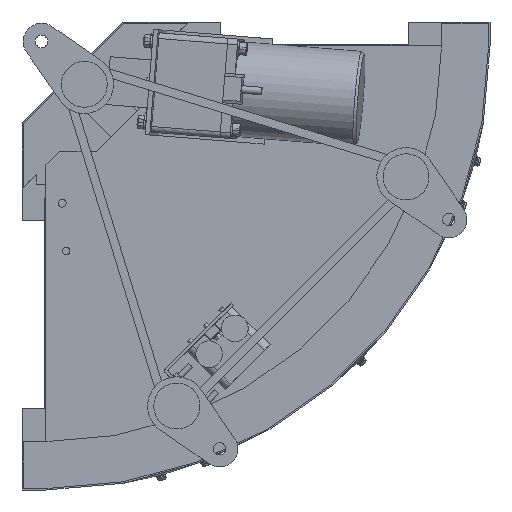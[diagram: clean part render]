
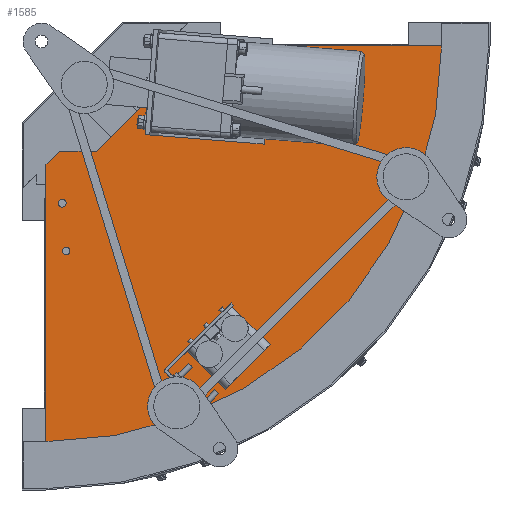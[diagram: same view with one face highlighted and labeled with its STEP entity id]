
A CAD part, front view. The second image highlights one B-rep face of the part: STEP entity #1585.
In plain terms, the highlighted planar face has unit normal (0, -1, 0).
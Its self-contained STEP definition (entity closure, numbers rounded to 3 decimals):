
#1585=ADVANCED_FACE('',(#3298,#3299,#3300,#3301,#3302),#3297,.F.);
#3297=PLANE('',#14455);
#3298=FACE_OUTER_BOUND('',#14456,.T.);
#3299=FACE_BOUND('',#14457,.T.);
#3300=FACE_BOUND('',#14458,.T.);
#3301=FACE_BOUND('',#14459,.T.);
#3302=FACE_BOUND('',#14460,.T.);
#14452=CARTESIAN_POINT('',(-10.,-142.5,-422.5));
#14453=DIRECTION('',(0.,1.,0.));
#14454=DIRECTION('',(0.,0.,1.));
#14455=AXIS2_PLACEMENT_3D('',#14452,#14453,#14454);
#14456=EDGE_LOOP('',(#21933,#21934,#21935,#21936,#21937,#21938,#21939,#21940));
#14457=EDGE_LOOP('',(#21941,#21942));
#14458=EDGE_LOOP('',(#21943,#21944));
#14459=EDGE_LOOP('',(#21945,#21946));
#14460=EDGE_LOOP('',(#21947,#21948));
#21933=ORIENTED_EDGE('',*,*,#26735,.F.);
#21934=ORIENTED_EDGE('',*,*,#26738,.F.);
#21935=ORIENTED_EDGE('',*,*,#26840,.T.);
#21936=ORIENTED_EDGE('',*,*,#26954,.F.);
#21937=ORIENTED_EDGE('',*,*,#26955,.F.);
#21938=ORIENTED_EDGE('',*,*,#26956,.F.);
#21939=ORIENTED_EDGE('',*,*,#26957,.T.);
#21940=ORIENTED_EDGE('',*,*,#26731,.F.);
#21941=ORIENTED_EDGE('',*,*,#26958,.F.);
#21942=ORIENTED_EDGE('',*,*,#26959,.F.);
#21943=ORIENTED_EDGE('',*,*,#26960,.F.);
#21944=ORIENTED_EDGE('',*,*,#26961,.F.);
#21945=ORIENTED_EDGE('',*,*,#26962,.F.);
#21946=ORIENTED_EDGE('',*,*,#26963,.F.);
#21947=ORIENTED_EDGE('',*,*,#26964,.F.);
#21948=ORIENTED_EDGE('',*,*,#26965,.F.);
#26731=EDGE_CURVE('',#29610,#29617,#29618,.T.);
#26735=EDGE_CURVE('',#29637,#29610,#29644,.T.);
#26738=EDGE_CURVE('',#29657,#29637,#29664,.T.);
#26840=EDGE_CURVE('',#29657,#30369,#30370,.T.);
#26954=EDGE_CURVE('',#31132,#30369,#31133,.T.);
#26955=EDGE_CURVE('',#31139,#31132,#31140,.T.);
#26956=EDGE_CURVE('',#31146,#31139,#31147,.T.);
#26957=EDGE_CURVE('',#31146,#29617,#31153,.T.);
#26958=EDGE_CURVE('',#31159,#31160,#31161,.T.);
#26959=EDGE_CURVE('',#31160,#31159,#31167,.T.);
#26960=EDGE_CURVE('',#31173,#31174,#31175,.T.);
#26961=EDGE_CURVE('',#31174,#31173,#31181,.T.);
#26962=EDGE_CURVE('',#31187,#31188,#31189,.T.);
#26963=EDGE_CURVE('',#31188,#31187,#31195,.T.);
#26964=EDGE_CURVE('',#31201,#31202,#31203,.T.);
#26965=EDGE_CURVE('',#31202,#31201,#31209,.T.);
#29610=VERTEX_POINT('',#46942);
#29617=VERTEX_POINT('',#46946);
#29618=LINE('',#46947,#46948);
#29637=VERTEX_POINT('',#46957);
#29644=LINE('',#46961,#46962);
#29657=VERTEX_POINT('',#46968);
#29664=LINE('',#46972,#46973);
#30369=VERTEX_POINT('',#47743);
#30370=LINE('',#47744,#47745);
#31132=VERTEX_POINT('',#48670);
#31133=LINE('',#48671,#48672);
#31139=VERTEX_POINT('',#48674);
#31140=CIRCLE('',#48678,412.5);
#31146=VERTEX_POINT('',#48679);
#31147=LINE('',#48680,#48681);
#31153=LINE('',#48683,#48684);
#31159=VERTEX_POINT('',#48686);
#31160=VERTEX_POINT('',#48687);
#31161=CIRCLE('',#48691,4.);
#31167=CIRCLE('',#48695,4.);
#31173=VERTEX_POINT('',#48696);
#31174=VERTEX_POINT('',#48697);
#31175=CIRCLE('',#48701,4.);
#31181=CIRCLE('',#48705,4.);
#31187=VERTEX_POINT('',#48706);
#31188=VERTEX_POINT('',#48707);
#31189=CIRCLE('',#48711,4.);
#31195=CIRCLE('',#48715,4.);
#31201=VERTEX_POINT('',#48716);
#31202=VERTEX_POINT('',#48717);
#31203=CIRCLE('',#48721,4.);
#31209=CIRCLE('',#48725,4.);
#46942=CARTESIAN_POINT('',(110.,-142.5,-52.635));
#46946=CARTESIAN_POINT('',(110.,-142.5,-14.1));
#46947=CARTESIAN_POINT('',(110.,-142.5,-52.635));
#46948=VECTOR('',#46949,38.535);
#46949=DIRECTION('',(0.,0.,1.));
#46957=CARTESIAN_POINT('',(52.635,-142.5,-110.));
#46961=CARTESIAN_POINT('',(52.635,-142.5,-110.));
#46962=VECTOR('',#46963,81.127);
#46963=DIRECTION('',(0.707,0.,0.707));
#46968=CARTESIAN_POINT('',(14.1,-142.5,-110.));
#46972=CARTESIAN_POINT('',(14.1,-142.5,-110.));
#46973=VECTOR('',#46974,38.535);
#46974=DIRECTION('',(1.,0.,0.));
#47743=CARTESIAN_POINT('',(0.,-142.5,-124.1));
#47744=CARTESIAN_POINT('',(14.1,-142.5,-110.));
#47745=VECTOR('',#47746,19.94);
#47746=DIRECTION('',(-0.707,0.,-0.707));
#48670=CARTESIAN_POINT('',(0.,-142.5,-412.5));
#48671=CARTESIAN_POINT('',(0.,-142.5,-412.5));
#48672=VECTOR('',#48673,288.4);
#48673=DIRECTION('',(0.,0.,1.));
#48674=CARTESIAN_POINT('',(412.5,-142.5,0.));
#48675=CARTESIAN_POINT('',(0.,-142.5,0.));
#48676=DIRECTION('',(0.,1.,0.));
#48677=DIRECTION('',(0.,0.,-1.));
#48678=AXIS2_PLACEMENT_3D('',#48675,#48676,#48677);
#48679=CARTESIAN_POINT('',(124.1,-142.5,0.));
#48680=CARTESIAN_POINT('',(124.1,-142.5,0.));
#48681=VECTOR('',#48682,288.4);
#48682=DIRECTION('',(1.,0.,0.));
#48683=CARTESIAN_POINT('',(124.1,-142.5,0.));
#48684=VECTOR('',#48685,19.94);
#48685=DIRECTION('',(-0.707,0.,-0.707));
#48686=CARTESIAN_POINT('',(21.,-142.5,-217.84));
#48687=CARTESIAN_POINT('',(21.,-142.5,-209.84));
#48688=CARTESIAN_POINT('',(21.,-142.5,-213.84));
#48689=DIRECTION('',(0.,-1.,0.));
#48690=DIRECTION('',(0.,0.,1.));
#48691=AXIS2_PLACEMENT_3D('',#48688,#48689,#48690);
#48692=CARTESIAN_POINT('',(21.,-142.5,-213.84));
#48693=DIRECTION('',(0.,-1.,0.));
#48694=DIRECTION('',(0.,0.,1.));
#48695=AXIS2_PLACEMENT_3D('',#48692,#48693,#48694);
#48696=CARTESIAN_POINT('',(17.,-142.5,-168.));
#48697=CARTESIAN_POINT('',(17.,-142.5,-160.));
#48698=CARTESIAN_POINT('',(17.,-142.5,-164.));
#48699=DIRECTION('',(0.,-1.,0.));
#48700=DIRECTION('',(0.,0.,1.));
#48701=AXIS2_PLACEMENT_3D('',#48698,#48699,#48700);
#48702=CARTESIAN_POINT('',(17.,-142.5,-164.));
#48703=DIRECTION('',(0.,-1.,0.));
#48704=DIRECTION('',(0.,0.,1.));
#48705=AXIS2_PLACEMENT_3D('',#48702,#48703,#48704);
#48706=CARTESIAN_POINT('',(164.,-142.5,-13.));
#48707=CARTESIAN_POINT('',(164.,-142.5,-21.));
#48708=CARTESIAN_POINT('',(164.,-142.5,-17.));
#48709=DIRECTION('',(0.,-1.,0.));
#48710=DIRECTION('',(0.,0.,-1.));
#48711=AXIS2_PLACEMENT_3D('',#48708,#48709,#48710);
#48712=CARTESIAN_POINT('',(164.,-142.5,-17.));
#48713=DIRECTION('',(0.,-1.,0.));
#48714=DIRECTION('',(0.,0.,-1.));
#48715=AXIS2_PLACEMENT_3D('',#48712,#48713,#48714);
#48716=CARTESIAN_POINT('',(213.84,-142.5,-17.));
#48717=CARTESIAN_POINT('',(213.84,-142.5,-25.));
#48718=CARTESIAN_POINT('',(213.84,-142.5,-21.));
#48719=DIRECTION('',(0.,-1.,0.));
#48720=DIRECTION('',(0.,0.,-1.));
#48721=AXIS2_PLACEMENT_3D('',#48718,#48719,#48720);
#48722=CARTESIAN_POINT('',(213.84,-142.5,-21.));
#48723=DIRECTION('',(0.,-1.,0.));
#48724=DIRECTION('',(0.,0.,-1.));
#48725=AXIS2_PLACEMENT_3D('',#48722,#48723,#48724);
